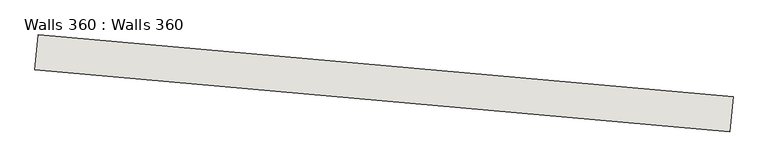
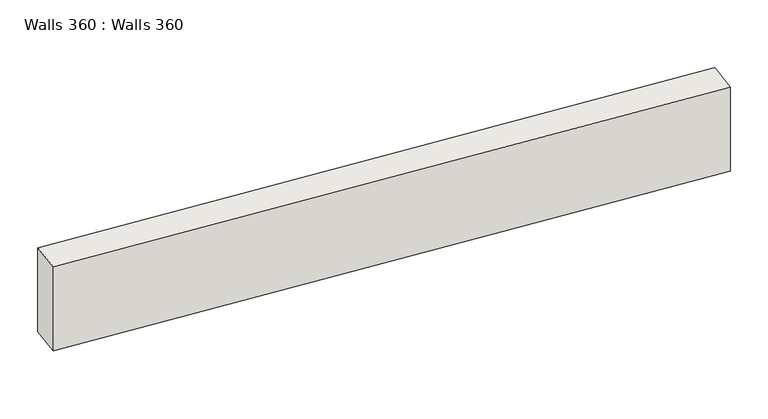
"""IFC4 building model written with IfcOpenShell, lengths in millimetres: wall geometry, Walls 360 : Walls 360."""

from ifc_helpers import new_model, si_unit, frame, origin, place, context, project, spatial, polyline, outline, extrude, source, transform, mapped, element, save


def walls_360_walls_360_f68bd85d(model_context):
    return source(origin(), model_context, "Body", "SweptSolid", [
        extrude(outline(polyline([(-714475.8371049, -415027.1429939), (-714511.3320349, -415425.5650188), (-722479.7725332, -414715.6664176), (-722444.2776032, -414317.2443927), (-714475.8371049, -415027.1429939)])), frame((0.0, 0.0, 635360.0), z_axis=(0.0, 0.0, 1.0), x_axis=(1.0, 0.0, 0.0)), (0.0, 0.0, 1.0), 1100.0),
    ])


if __name__ == "__main__":
    model = new_model("IFC4")
    model_context = context("Model", 3, world=origin())
    ifc_project = project(units=[si_unit("LENGTHUNIT", "METRE", prefix="MILLI")], contexts=[model_context])
    site = spatial("IfcSite", under=ifc_project)
    building = spatial("IfcBuilding", under=site)
    placement = place(None, origin())
    walls_360_walls_360_shape = walls_360_walls_360_f68bd85d(model_context)
    element("IfcWall", 1, ObjectType="Walls 360 : Walls 360", at=placement, inside=building, context=model_context, shape_type="MappedRepresentation", body=[
        mapped(walls_360_walls_360_shape, transform((0.0, 0.0, 0.0), x_axis=(1.0, 0.0, 0.0), y_axis=(0.0, 1.0, 0.0), z_axis=(0.0, 0.0, 1.0))),
    ])
    save(model, "model.ifc")
